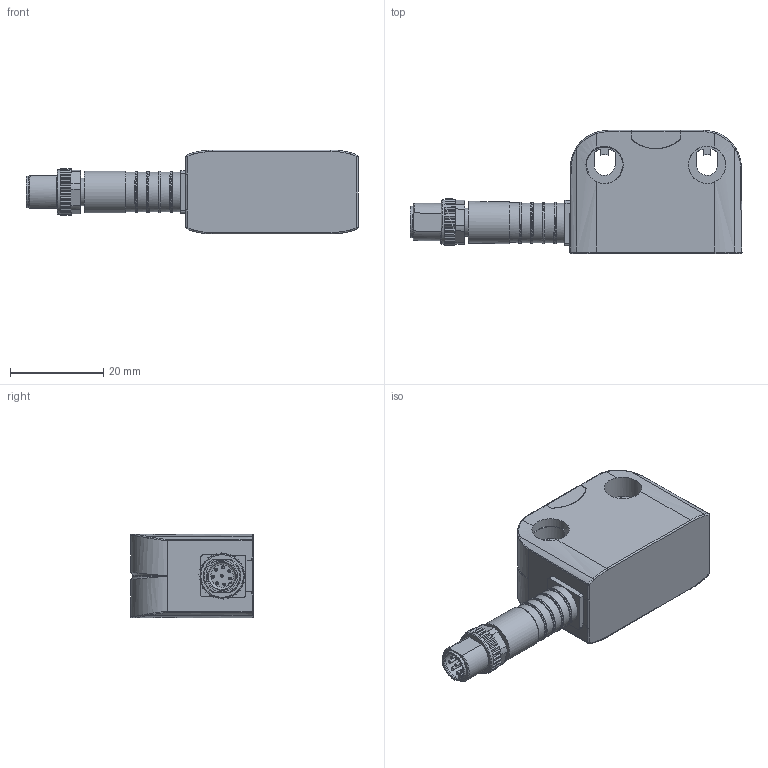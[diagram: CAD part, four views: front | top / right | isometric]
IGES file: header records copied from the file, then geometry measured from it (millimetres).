
Global section: file name: 2024149_C_PSENma1.4p-59; native system: Autodesk Inventor 2022; preprocessor: unknown; author: jebe; date: 20230808.121933; units: millimetre
Bounding box: 71.27 x 26.4 x 18 mm (x, y, z)
Volume: 17361.3 mm3; surface area: 7030.1 mm2
Topology: 3 solids, 3 shells, 613 faces, 1545 edges, 951 vertices
Faces by surface type: bspline 613
